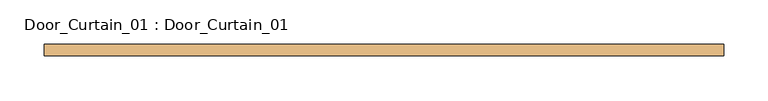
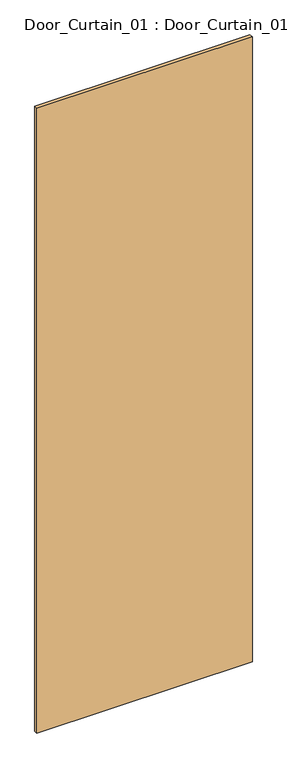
"""IFC4 building model written with IfcOpenShell, lengths in millimetres: door geometry, Door_Curtain_01 : Door_Curtain_01."""

from ifc_helpers import new_model, si_unit, origin, origin_with_axes, place, context, project, spatial, polyline, outline, extrude, source, transform, mapped, element, save


def door_curtain_01_door_curtain_01_92228c6f(model_context):
    return source(origin(), model_context, "Body", "SweptSolid", [
        extrude(outline(polyline([(381.875, 5.0), (381.875, -7.7), (-381.875, -7.7), (-381.875, 5.0), (381.875, 5.0)])), origin_with_axes(), (0.0, 0.0, 1.0), 2340.3266132),
    ])


if __name__ == "__main__":
    model = new_model("IFC4")
    model_context = context("Model", 3, world=origin())
    ifc_project = project(units=[si_unit("LENGTHUNIT", "METRE", prefix="MILLI")], contexts=[model_context])
    site = spatial("IfcSite", under=ifc_project)
    building = spatial("IfcBuilding", under=site)
    placement = place(None, origin())
    door_curtain_01_door_curtain_01_shape = door_curtain_01_door_curtain_01_92228c6f(model_context)
    element("IfcDoor", 1, ObjectType="Door_Curtain_01 : Door_Curtain_01", at=placement, inside=building, context=model_context, shape_type="MappedRepresentation", body=[
        mapped(door_curtain_01_door_curtain_01_shape, transform((0.0, 0.0, 0.0), x_axis=(1.0, 0.0, 0.0), y_axis=(0.0, 1.0, 0.0), z_axis=(0.0, 0.0, 1.0))),
    ])
    save(model, "model.ifc")
